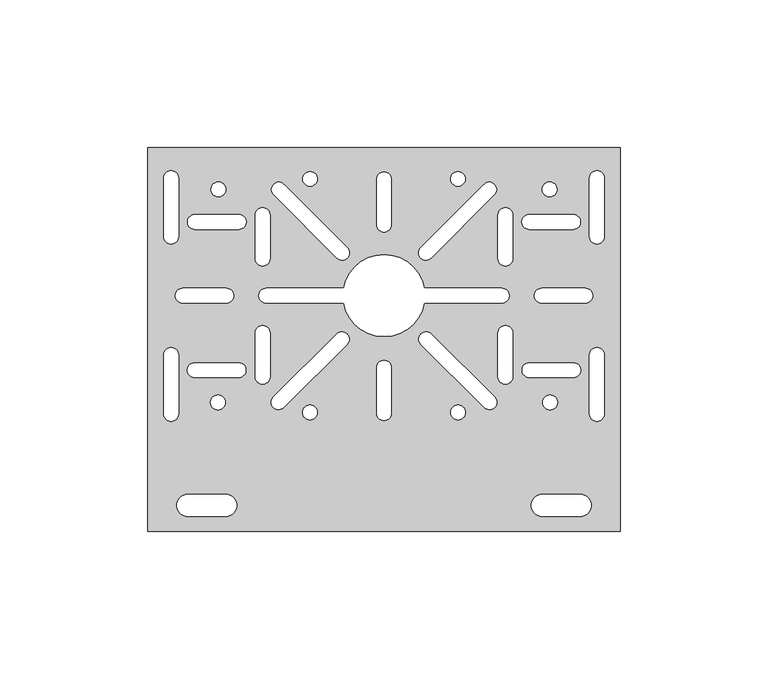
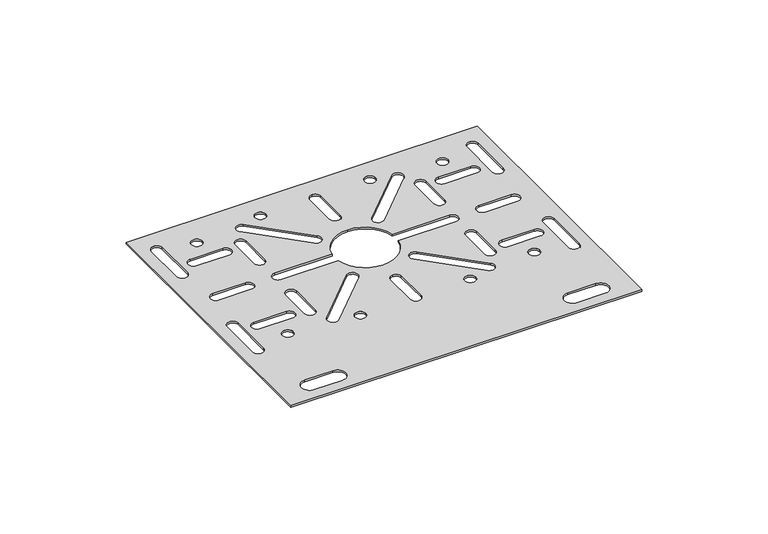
"""IFC4 building model written with IfcOpenShell, lengths in millimetres: proxy geometry, Cable_Tray_Support_Box_SUCP_Basortray : Basortray SUCP-GS."""

from ifc_helpers import new_model, si_unit, point, frame_2d, origin, origin_with_axes, place, context, project, spatial, polyline, circle_curve, trimmed, segment, composite_curve, outline, extrude, source, transform, mapped, element, save


def generic_models_029ad9ad(model_context):
    return source(origin(), model_context, "Body", "SweptSolid", [
        extrude(outline(polyline([(80.0, 65.0), (80.0, -65.0), (-80.0, -65.0), (-80.0, 65.0), (80.0, 65.0)]), holes=[composite_curve([segment(polyline([(-13.6790186, 17.3390887), (-39.9129273, 17.3390887)]), True, "CONTINUOUS"), segment(trimmed(circle_curve(frame_2d((-39.9129273, 14.8390887)), 2.5), [point((-39.9129273, 17.3390887))], [point((-39.9129273, 12.3390887))], True, "CARTESIAN"), True, "CONTINUOUS"), segment(polyline([(-39.9129273, 12.3390887), (-13.6790186, 12.3390887)]), True, "CONTINUOUS"), segment(trimmed(circle_curve(frame_2d((0.0, 14.8390887)), 13.9055942), [point((-13.6790186, 12.3390887))], [point((13.6790186, 12.3390887))], True, "CARTESIAN"), True, "CONTINUOUS"), segment(polyline([(13.6790186, 12.3390887), (39.9129273, 12.3390887)]), True, "CONTINUOUS"), segment(trimmed(circle_curve(frame_2d((39.9129273, 14.8390887)), 2.5), [point((39.9129273, 12.3390887))], [point((39.9129273, 17.3390887))], True, "CARTESIAN"), True, "CONTINUOUS"), segment(polyline([(39.9129273, 17.3390887), (13.6790186, 17.3390887)]), True, "CONTINUOUS"), segment(trimmed(circle_curve(frame_2d((0.0, 14.8390887)), 13.9055942), [point((13.6790186, 17.3390887))], [point((0.0, 28.744683))], True, "CARTESIAN"), True, "CONTINUOUS"), segment(trimmed(circle_curve(frame_2d((0.0, 14.8390887)), 13.9055942), [point((0.0, 28.744683))], [point((-13.6790186, 17.3390887))], True, "CARTESIAN"), True, "CONTINUOUS")], self_intersect=False), composite_curve([segment(trimmed(circle_curve(frame_2d((-56.2541988, -21.3852216)), 2.5134272), [point((-58.767626, -21.3852216))], [point((-53.7407717, -21.3852216))], True, "CARTESIAN"), True, "CONTINUOUS"), segment(trimmed(circle_curve(frame_2d((-56.2541988, -21.3852216)), 2.5134272), [point((-53.7407717, -21.3852216))], [point((-58.767626, -21.3852216))], True, "CARTESIAN"), True, "CONTINUOUS")], self_intersect=False), composite_curve([segment(trimmed(circle_curve(frame_2d((-25.0719273, -24.7515917)), 2.4891717), [point((-27.561099, -24.7515917))], [point((-22.5827556, -24.7515917))], True, "CARTESIAN"), True, "CONTINUOUS"), segment(trimmed(circle_curve(frame_2d((-25.0719273, -24.7515917)), 2.4891717), [point((-22.5827556, -24.7515917))], [point((-27.561099, -24.7515917))], True, "CARTESIAN"), True, "CONTINUOUS")], self_intersect=False), composite_curve([segment(trimmed(circle_curve(frame_2d((-56.0794756, 50.8344232)), 2.5256415), [point((-58.6051171, 50.8344232))], [point((-53.553834, 50.8344232))], True, "CARTESIAN"), True, "CONTINUOUS"), segment(trimmed(circle_curve(frame_2d((-56.0794756, 50.8344232)), 2.5256415), [point((-53.553834, 50.8344232))], [point((-58.6051171, 50.8344232))], True, "CARTESIAN"), True, "CONTINUOUS")], self_intersect=False), composite_curve([segment(trimmed(circle_curve(frame_2d((-25.0207051, 54.3983277)), 2.4935348), [point((-27.5142399, 54.3983277))], [point((-22.5271702, 54.3983277))], True, "CARTESIAN"), True, "CONTINUOUS"), segment(trimmed(circle_curve(frame_2d((-25.0207051, 54.3983277)), 2.4935348), [point((-22.5271702, 54.3983277))], [point((-27.5142399, 54.3983277))], True, "CARTESIAN"), True, "CONTINUOUS")], self_intersect=False), composite_curve([segment(polyline([(-38.5861928, 27.3584251), (-38.5861928, 42.1888216)]), True, "CONTINUOUS"), segment(trimmed(circle_curve(frame_2d((-41.0861928, 42.1888216)), 2.5), [point((-38.5861928, 42.1888216))], [point((-43.5861928, 42.1888216))], True, "CARTESIAN"), True, "CONTINUOUS"), segment(polyline([(-43.5861928, 42.1888216), (-43.5861928, 27.3584251)]), True, "CONTINUOUS"), segment(trimmed(circle_curve(frame_2d((-41.0861928, 27.3584251)), 2.5), [point((-43.5861928, 27.3584251))], [point((-38.5861928, 27.3584251))], True, "CARTESIAN"), True, "CONTINUOUS")], self_intersect=False), composite_curve([segment(polyline([(-38.5861928, -12.6415749), (-38.5861928, 2.1888216)]), True, "CONTINUOUS"), segment(trimmed(circle_curve(frame_2d((-41.0861928, 2.1888216)), 2.5), [point((-38.5861928, 2.1888216))], [point((-43.5861928, 2.1888216))], True, "CARTESIAN"), True, "CONTINUOUS"), segment(polyline([(-43.5861928, 2.1888216), (-43.5861928, -12.6415749)]), True, "CONTINUOUS"), segment(trimmed(circle_curve(frame_2d((-41.0861928, -12.6415749)), 2.5), [point((-43.5861928, -12.6415749))], [point((-38.5861928, -12.6415749))], True, "CARTESIAN"), True, "CONTINUOUS")], self_intersect=False), composite_curve([segment(polyline([(-49.1928729, 42.2863185), (-64.0232694, 42.2863185)]), True, "CONTINUOUS"), segment(trimmed(circle_curve(frame_2d((-64.0232694, 39.7863185)), 2.5), [point((-64.0232694, 42.2863185))], [point((-64.0232694, 37.2863185))], True, "CARTESIAN"), True, "CONTINUOUS"), segment(polyline([(-64.0232694, 37.2863185), (-49.1928729, 37.2863185)]), True, "CONTINUOUS"), segment(trimmed(circle_curve(frame_2d((-49.1928729, 39.7863185)), 2.5), [point((-49.1928729, 37.2863185))], [point((-49.1928729, 42.2863185))], True, "CARTESIAN"), True, "CONTINUOUS")], self_intersect=False), composite_curve([segment(polyline([(-53.3590469, 17.3390887), (-68.1894434, 17.3390887)]), True, "CONTINUOUS"), segment(trimmed(circle_curve(frame_2d((-68.1894434, 14.8390887)), 2.5), [point((-68.1894434, 17.3390887))], [point((-68.1894434, 12.3390887))], True, "CARTESIAN"), True, "CONTINUOUS"), segment(polyline([(-68.1894434, 12.3390887), (-53.3590469, 12.3390887)]), True, "CONTINUOUS"), segment(trimmed(circle_curve(frame_2d((-53.3590469, 14.8390887)), 2.5), [point((-53.3590469, 12.3390887))], [point((-53.3590469, 17.3390887))], True, "CARTESIAN"), True, "CONTINUOUS")], self_intersect=False), composite_curve([segment(polyline([(-49.2126383, -7.9007823), (-64.0430348, -7.9007823)]), True, "CONTINUOUS"), segment(trimmed(circle_curve(frame_2d((-64.0430348, -10.4007823)), 2.5), [point((-64.0430348, -7.9007823))], [point((-64.0430348, -12.9007823))], True, "CARTESIAN"), True, "CONTINUOUS"), segment(polyline([(-64.0430348, -12.9007823), (-49.2126383, -12.9007823)]), True, "CONTINUOUS"), segment(trimmed(circle_curve(frame_2d((-49.2126383, -10.4007823)), 2.5), [point((-49.2126383, -12.9007823))], [point((-49.2126383, -7.9007823))], True, "CARTESIAN"), True, "CONTINUOUS")], self_intersect=False), composite_curve([segment(polyline([(-69.5582334, 34.789781), (-69.5582334, 54.7316998)]), True, "CONTINUOUS"), segment(trimmed(circle_curve(frame_2d((-72.0582334, 54.7316998)), 2.5), [point((-69.5582334, 54.7316998))], [point((-74.5582334, 54.7316998))], True, "CARTESIAN"), True, "CONTINUOUS"), segment(polyline([(-74.5582334, 54.7316998), (-74.5582334, 34.789781)]), True, "CONTINUOUS"), segment(trimmed(circle_curve(frame_2d((-72.0582334, 34.789781)), 2.5), [point((-74.5582334, 34.789781))], [point((-69.5582334, 34.789781))], True, "CARTESIAN"), True, "CONTINUOUS")], self_intersect=False), composite_curve([segment(polyline([(-69.5582334, -25.210219), (-69.5582334, -5.2683002)]), True, "CONTINUOUS"), segment(trimmed(circle_curve(frame_2d((-72.0582334, -5.2683002)), 2.5), [point((-69.5582334, -5.2683002))], [point((-74.5582334, -5.2683002))], True, "CARTESIAN"), True, "CONTINUOUS"), segment(polyline([(-74.5582334, -5.2683002), (-74.5582334, -25.210219)]), True, "CONTINUOUS"), segment(trimmed(circle_curve(frame_2d((-72.0582334, -25.210219)), 2.5), [point((-74.5582334, -25.210219))], [point((-69.5582334, -25.210219))], True, "CARTESIAN"), True, "CONTINUOUS")], self_intersect=False), composite_curve([segment(polyline([(-16.05618, 1.8786128), (-37.4614743, -19.5266814)]), True, "CONTINUOUS"), segment(trimmed(circle_curve(frame_2d((-35.6937073, -21.2944484)), 2.5), [point((-37.4614743, -19.5266814))], [point((-33.9259404, -23.0622153))], True, "CARTESIAN"), True, "CONTINUOUS"), segment(polyline([(-33.9259404, -23.0622153), (-12.5206461, -1.6569211)]), True, "CONTINUOUS"), segment(trimmed(circle_curve(frame_2d((-14.288413, 0.1108459)), 2.5), [point((-12.5206461, -1.6569211))], [point((-16.05618, 1.8786128))], True, "CARTESIAN"), True, "CONTINUOUS")], self_intersect=False), composite_curve([segment(trimmed(circle_curve(frame_2d((-14.1862271, 29.3629597)), 2.5), [point((-15.953994, 27.5951927))], [point((-12.4184601, 31.1307266))], True, "CARTESIAN"), True, "CONTINUOUS"), segment(polyline([(-12.4184601, 31.1307266), (-33.8237544, 52.5360209)]), True, "CONTINUOUS"), segment(trimmed(circle_curve(frame_2d((-35.5915214, 50.768254)), 2.5), [point((-33.8237544, 52.5360209))], [point((-37.3592883, 49.000487))], True, "CARTESIAN"), True, "CONTINUOUS"), segment(polyline([(-37.3592883, 49.000487), (-15.953994, 27.5951927)]), True, "CONTINUOUS")], self_intersect=False), composite_curve([segment(trimmed(circle_curve(frame_2d((-53.6509485, -56.2357452)), 3.7642548), [point((-53.6509485, -60.0))], [point((-53.6509485, -52.4714903))], True, "CARTESIAN"), True, "CONTINUOUS"), segment(polyline([(-53.6509485, -52.4714903), (-66.4153814, -52.4714903)]), True, "CONTINUOUS"), segment(trimmed(circle_curve(frame_2d((-66.4153814, -56.2357452)), 3.7642548), [point((-66.4153814, -52.4714903))], [point((-66.4153814, -60.0))], True, "CARTESIAN"), True, "CONTINUOUS"), segment(polyline([(-66.4153814, -60.0), (-53.6509485, -60.0)]), True, "CONTINUOUS")], self_intersect=False), composite_curve([segment(polyline([(-2.4658404, -9.5596473), (-2.4658404, -24.9845374)]), True, "CONTINUOUS"), segment(trimmed(circle_curve(frame_2d((0.0, -24.9845374)), 2.4658404), [point((-2.4658404, -24.9845374))], [point((0.0, -27.4503778))], True, "CARTESIAN"), True, "CONTINUOUS"), segment(trimmed(circle_curve(frame_2d((0.0, -24.9845374)), 2.4658404), [point((0.0, -27.4503778))], [point((2.4658404, -24.9845374))], True, "CARTESIAN"), True, "CONTINUOUS"), segment(polyline([(2.4658404, -24.9845374), (2.4658404, -9.5596473)]), True, "CONTINUOUS"), segment(trimmed(circle_curve(frame_2d((0.0, -9.5596473)), 2.4658404), [point((2.4658404, -9.5596473))], [point((0.0, -7.0938069))], True, "CARTESIAN"), True, "CONTINUOUS"), segment(trimmed(circle_curve(frame_2d((0.0, -9.5596473)), 2.4658404), [point((0.0, -7.0938069))], [point((-2.4658404, -9.5596473))], True, "CARTESIAN"), True, "CONTINUOUS")], self_intersect=False), composite_curve([segment(polyline([(-2.4658404, 54.2894119), (-2.4658404, 38.8645218)]), True, "CONTINUOUS"), segment(trimmed(circle_curve(frame_2d((0.0, 38.8645218)), 2.4658404), [point((-2.4658404, 38.8645218))], [point((0.0, 36.3986814))], True, "CARTESIAN"), True, "CONTINUOUS"), segment(trimmed(circle_curve(frame_2d((0.0, 38.8645218)), 2.4658404), [point((0.0, 36.3986814))], [point((2.4658404, 38.8645218))], True, "CARTESIAN"), True, "CONTINUOUS"), segment(polyline([(2.4658404, 38.8645218), (2.4658404, 54.2894119)]), True, "CONTINUOUS"), segment(trimmed(circle_curve(frame_2d((0.0, 54.2894119)), 2.4658404), [point((2.4658404, 54.2894119))], [point((0.0, 56.7552523))], True, "CARTESIAN"), True, "CONTINUOUS"), segment(trimmed(circle_curve(frame_2d((0.0, 54.2894119)), 2.4658404), [point((0.0, 56.7552523))], [point((-2.4658404, 54.2894119))], True, "CARTESIAN"), True, "CONTINUOUS")], self_intersect=False), composite_curve([segment(trimmed(circle_curve(frame_2d((56.2541988, -21.3852216)), 2.5134272), [point((53.7407717, -21.3852216))], [point((58.767626, -21.3852216))], True, "CARTESIAN"), True, "CONTINUOUS"), segment(trimmed(circle_curve(frame_2d((56.2541988, -21.3852216)), 2.5134272), [point((58.767626, -21.3852216))], [point((53.7407717, -21.3852216))], True, "CARTESIAN"), True, "CONTINUOUS")], self_intersect=False), composite_curve([segment(trimmed(circle_curve(frame_2d((25.0719273, -24.7515917)), 2.4891717), [point((22.5827556, -24.7515917))], [point((27.561099, -24.7515917))], True, "CARTESIAN"), True, "CONTINUOUS"), segment(trimmed(circle_curve(frame_2d((25.0719273, -24.7515917)), 2.4891717), [point((27.561099, -24.7515917))], [point((22.5827556, -24.7515917))], True, "CARTESIAN"), True, "CONTINUOUS")], self_intersect=False), composite_curve([segment(trimmed(circle_curve(frame_2d((56.0794756, 50.8344232)), 2.5256415), [point((53.553834, 50.8344232))], [point((58.6051171, 50.8344232))], True, "CARTESIAN"), True, "CONTINUOUS"), segment(trimmed(circle_curve(frame_2d((56.0794756, 50.8344232)), 2.5256415), [point((58.6051171, 50.8344232))], [point((53.553834, 50.8344232))], True, "CARTESIAN"), True, "CONTINUOUS")], self_intersect=False), composite_curve([segment(trimmed(circle_curve(frame_2d((25.0207051, 54.3983277)), 2.4935348), [point((22.5271702, 54.3983277))], [point((27.5142399, 54.3983277))], True, "CARTESIAN"), True, "CONTINUOUS"), segment(trimmed(circle_curve(frame_2d((25.0207051, 54.3983277)), 2.4935348), [point((27.5142399, 54.3983277))], [point((22.5271702, 54.3983277))], True, "CARTESIAN"), True, "CONTINUOUS")], self_intersect=False), composite_curve([segment(trimmed(circle_curve(frame_2d((41.0861928, 27.3584251)), 2.5), [point((38.5861928, 27.3584251))], [point((43.5861928, 27.3584251))], True, "CARTESIAN"), True, "CONTINUOUS"), segment(polyline([(43.5861928, 27.3584251), (43.5861928, 42.1888216)]), True, "CONTINUOUS"), segment(trimmed(circle_curve(frame_2d((41.0861928, 42.1888216)), 2.5), [point((43.5861928, 42.1888216))], [point((38.5861928, 42.1888216))], True, "CARTESIAN"), True, "CONTINUOUS"), segment(polyline([(38.5861928, 42.1888216), (38.5861928, 27.3584251)]), True, "CONTINUOUS")], self_intersect=False), composite_curve([segment(trimmed(circle_curve(frame_2d((41.0861928, -12.6415749)), 2.5), [point((38.5861928, -12.6415749))], [point((43.5861928, -12.6415749))], True, "CARTESIAN"), True, "CONTINUOUS"), segment(polyline([(43.5861928, -12.6415749), (43.5861928, 2.1888216)]), True, "CONTINUOUS"), segment(trimmed(circle_curve(frame_2d((41.0861928, 2.1888216)), 2.5), [point((43.5861928, 2.1888216))], [point((38.5861928, 2.1888216))], True, "CARTESIAN"), True, "CONTINUOUS"), segment(polyline([(38.5861928, 2.1888216), (38.5861928, -12.6415749)]), True, "CONTINUOUS")], self_intersect=False), composite_curve([segment(trimmed(circle_curve(frame_2d((49.1928729, 39.7863185)), 2.5), [point((49.1928729, 42.2863185))], [point((49.1928729, 37.2863185))], True, "CARTESIAN"), True, "CONTINUOUS"), segment(polyline([(49.1928729, 37.2863185), (64.0232694, 37.2863185)]), True, "CONTINUOUS"), segment(trimmed(circle_curve(frame_2d((64.0232694, 39.7863185)), 2.5), [point((64.0232694, 37.2863185))], [point((64.0232694, 42.2863185))], True, "CARTESIAN"), True, "CONTINUOUS"), segment(polyline([(64.0232694, 42.2863185), (49.1928729, 42.2863185)]), True, "CONTINUOUS")], self_intersect=False), composite_curve([segment(trimmed(circle_curve(frame_2d((53.3590469, 14.8390887)), 2.5), [point((53.3590469, 17.3390887))], [point((53.3590469, 12.3390887))], True, "CARTESIAN"), True, "CONTINUOUS"), segment(polyline([(53.3590469, 12.3390887), (68.1894434, 12.3390887)]), True, "CONTINUOUS"), segment(trimmed(circle_curve(frame_2d((68.1894434, 14.8390887)), 2.5), [point((68.1894434, 12.3390887))], [point((68.1894434, 17.3390887))], True, "CARTESIAN"), True, "CONTINUOUS"), segment(polyline([(68.1894434, 17.3390887), (53.3590469, 17.3390887)]), True, "CONTINUOUS")], self_intersect=False), composite_curve([segment(trimmed(circle_curve(frame_2d((49.2126383, -10.4007823)), 2.5), [point((49.2126383, -7.9007823))], [point((49.2126383, -12.9007823))], True, "CARTESIAN"), True, "CONTINUOUS"), segment(polyline([(49.2126383, -12.9007823), (64.0430348, -12.9007823)]), True, "CONTINUOUS"), segment(trimmed(circle_curve(frame_2d((64.0430348, -10.4007823)), 2.5), [point((64.0430348, -12.9007823))], [point((64.0430348, -7.9007823))], True, "CARTESIAN"), True, "CONTINUOUS"), segment(polyline([(64.0430348, -7.9007823), (49.2126383, -7.9007823)]), True, "CONTINUOUS")], self_intersect=False), composite_curve([segment(trimmed(circle_curve(frame_2d((72.0582334, 34.789781)), 2.5), [point((69.5582334, 34.789781))], [point((74.5582334, 34.789781))], True, "CARTESIAN"), True, "CONTINUOUS"), segment(polyline([(74.5582334, 34.789781), (74.5582334, 54.7316998)]), True, "CONTINUOUS"), segment(trimmed(circle_curve(frame_2d((72.0582334, 54.7316998)), 2.5), [point((74.5582334, 54.7316998))], [point((69.5582334, 54.7316998))], True, "CARTESIAN"), True, "CONTINUOUS"), segment(polyline([(69.5582334, 54.7316998), (69.5582334, 34.789781)]), True, "CONTINUOUS")], self_intersect=False), composite_curve([segment(trimmed(circle_curve(frame_2d((72.0582334, -25.210219)), 2.5), [point((69.5582334, -25.210219))], [point((74.5582334, -25.210219))], True, "CARTESIAN"), True, "CONTINUOUS"), segment(polyline([(74.5582334, -25.210219), (74.5582334, -5.2683002)]), True, "CONTINUOUS"), segment(trimmed(circle_curve(frame_2d((72.0582334, -5.2683002)), 2.5), [point((74.5582334, -5.2683002))], [point((69.5582334, -5.2683002))], True, "CARTESIAN"), True, "CONTINUOUS"), segment(polyline([(69.5582334, -5.2683002), (69.5582334, -25.210219)]), True, "CONTINUOUS")], self_intersect=False), composite_curve([segment(trimmed(circle_curve(frame_2d((14.288413, 0.1108459)), 2.5), [point((16.05618, 1.8786128))], [point((12.5206461, -1.6569211))], True, "CARTESIAN"), True, "CONTINUOUS"), segment(polyline([(12.5206461, -1.6569211), (33.9259404, -23.0622153)]), True, "CONTINUOUS"), segment(trimmed(circle_curve(frame_2d((35.6937073, -21.2944484)), 2.5), [point((33.9259404, -23.0622153))], [point((37.4614743, -19.5266814))], True, "CARTESIAN"), True, "CONTINUOUS"), segment(polyline([(37.4614743, -19.5266814), (16.05618, 1.8786128)]), True, "CONTINUOUS")], self_intersect=False), composite_curve([segment(polyline([(15.953994, 27.5951927), (37.3592883, 49.000487)]), True, "CONTINUOUS"), segment(trimmed(circle_curve(frame_2d((35.5915214, 50.768254)), 2.5), [point((37.3592883, 49.000487))], [point((33.8237544, 52.5360209))], True, "CARTESIAN"), True, "CONTINUOUS"), segment(polyline([(33.8237544, 52.5360209), (12.4184601, 31.1307266)]), True, "CONTINUOUS"), segment(trimmed(circle_curve(frame_2d((14.1862271, 29.3629597)), 2.5), [point((12.4184601, 31.1307266))], [point((15.953994, 27.5951927))], True, "CARTESIAN"), True, "CONTINUOUS")], self_intersect=False), composite_curve([segment(polyline([(53.6509485, -60.0), (66.4153814, -60.0)]), True, "CONTINUOUS"), segment(trimmed(circle_curve(frame_2d((66.4153814, -56.2357452)), 3.7642548), [point((66.4153814, -60.0))], [point((66.4153814, -52.4714903))], True, "CARTESIAN"), True, "CONTINUOUS"), segment(polyline([(66.4153814, -52.4714903), (53.6509485, -52.4714903)]), True, "CONTINUOUS"), segment(trimmed(circle_curve(frame_2d((53.6509485, -56.2357452)), 3.7642548), [point((53.6509485, -52.4714903))], [point((53.6509485, -60.0))], True, "CARTESIAN"), True, "CONTINUOUS")], self_intersect=False)]), origin_with_axes(), (0.0, 0.0, 1.0), 0.8),
    ])


if __name__ == "__main__":
    model = new_model("IFC4")
    model_context = context("Model", 3, world=origin())
    ifc_project = project(units=[si_unit("LENGTHUNIT", "METRE", prefix="MILLI")], contexts=[model_context])
    site = spatial("IfcSite", under=ifc_project)
    building = spatial("IfcBuilding", under=site)
    placement = place(None, origin())
    generic_models_shape = generic_models_029ad9ad(model_context)
    element("IfcBuildingElementProxy", 1, Name="Cable_Tray_Support_Box_SUCP_Basortray : Basortray SUCP-GS", ObjectType="Cable_Tray_Support_Box_SUCP_Basortray : Basortray SUCP-GS", at=placement, inside=building, context=model_context, shape_type="MappedRepresentation", body=[
        mapped(generic_models_shape, transform((0.0, 0.0, 0.0), x_axis=(1.0, 0.0, 0.0), y_axis=(0.0, 1.0, 0.0), z_axis=(0.0, 0.0, 1.0))),
    ])
    save(model, "model.ifc")
